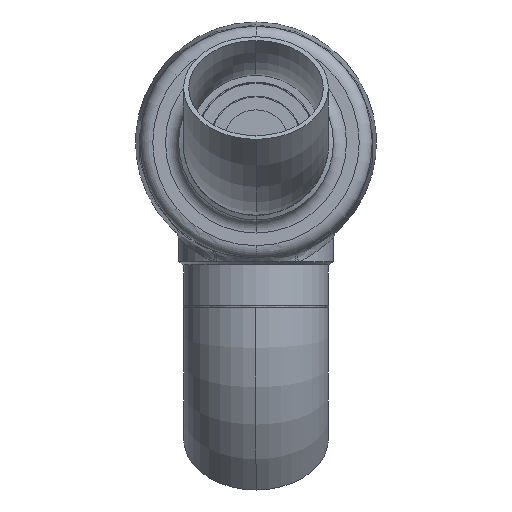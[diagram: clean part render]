
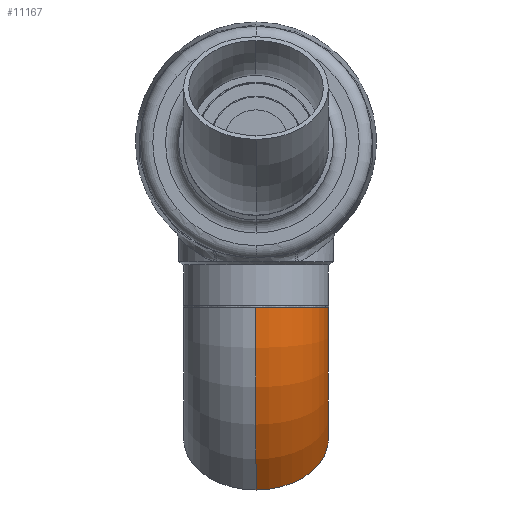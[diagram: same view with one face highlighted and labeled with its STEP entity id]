
A CAD part, front view. The second image highlights one B-rep face of the part: STEP entity #11167.
In plain terms, the highlighted toroidal (fillet/blend) face has major radius 114 mm and minor radius 44.45 mm.
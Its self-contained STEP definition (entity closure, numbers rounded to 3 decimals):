
#409 = ORIENTED_EDGE ( 'NONE', *, *, #1423, .T. ) ;
#912 = EDGE_CURVE ( 'NONE', #4461, #4678, #12273, .T. ) ;
#17565 = CARTESIAN_POINT ( 'NONE',  ( 0., 44.45, 0. ) ) ;
#1405 = ORIENTED_EDGE ( 'NONE', *, *, #3584, .F. ) ;
#1423 = EDGE_CURVE ( 'NONE', #4461, #2293, #12633, .T. ) ;
#17910 = CIRCLE ( 'NONE', #17911, 158.45 ) ;
#17911 = AXIS2_PLACEMENT_3D ( 'NONE', #17912, #17913, #17914 ) ;
#17912 = CARTESIAN_POINT ( 'NONE',  ( 0., -114., 0. ) ) ;
#17913 = DIRECTION ( 'NONE',  ( 0., 0., 1. ) ) ;
#17914 = DIRECTION ( 'NONE',  ( 1., 0., 0. ) ) ;
#18334 = EDGE_CURVE ( 'NONE', #2293, #3373, #2620, .T. ) ;
#2293 = VERTEX_POINT ( 'NONE', #13402 ) ;
#18703 = ORIENTED_EDGE ( 'NONE', *, *, #18334, .T. ) ;
#2620 = CIRCLE ( 'NONE', #2621, 44.45 ) ;
#2621 = AXIS2_PLACEMENT_3D ( 'NONE', #2622, #2623, #2624 ) ;
#2622 = CARTESIAN_POINT ( 'NONE',  ( 0., 0., 0. ) ) ;
#2623 = DIRECTION ( 'NONE',  ( 1., 0., 0. ) ) ;
#2624 = DIRECTION ( 'NONE',  ( 0., 0., -1. ) ) ;
#3079 = CARTESIAN_POINT ( 'NONE',  ( 49.179, -64.821, 0. ) ) ;
#3373 = VERTEX_POINT ( 'NONE', #17565 ) ;
#3584 = EDGE_CURVE ( 'NONE', #4678, #3373, #17910, .T. ) ;
#4461 = VERTEX_POINT ( 'NONE', #3079 ) ;
#4678 = VERTEX_POINT ( 'NONE', #6265 ) ;
#6265 = CARTESIAN_POINT ( 'NONE',  ( 112.041, -1.959, 0. ) ) ;
#10753 = EDGE_LOOP ( 'NONE', ( #1405, #13435, #409, #18703 ) ) ;
#11167 = ADVANCED_FACE ( 'NONE', ( #12915 ), #12916, .T. ) ;
#12273 = CIRCLE ( 'NONE', #12274, 44.45 ) ;
#12274 = AXIS2_PLACEMENT_3D ( 'NONE', #12275, #12276, #12277 ) ;
#12275 = CARTESIAN_POINT ( 'NONE',  ( 80.61, -33.39, 0. ) ) ;
#12276 = DIRECTION ( 'NONE',  ( 0.707, -0.707, 0. ) ) ;
#12277 = DIRECTION ( 'NONE',  ( 0., 0., -1. ) ) ;
#12633 = CIRCLE ( 'NONE', #12634, 69.55 ) ;
#12634 = AXIS2_PLACEMENT_3D ( 'NONE', #12635, #12636, #12637 ) ;
#12635 = CARTESIAN_POINT ( 'NONE',  ( 0., -114., 0. ) ) ;
#12636 = DIRECTION ( 'NONE',  ( 0., 0., 1. ) ) ;
#12637 = DIRECTION ( 'NONE',  ( 1., 0., 0. ) ) ;
#12915 = FACE_OUTER_BOUND ( 'NONE', #10753, .T. ) ;
#12916 = TOROIDAL_SURFACE ( 'NONE', #12917, 114., 44.45 ) ;
#12917 = AXIS2_PLACEMENT_3D ( 'NONE', #12918, #12919, #12920 ) ;
#12918 = CARTESIAN_POINT ( 'NONE',  ( 0., -114., 0. ) ) ;
#12919 = DIRECTION ( 'NONE',  ( 0., 0., 1. ) ) ;
#12920 = DIRECTION ( 'NONE',  ( 1., 0., 0. ) ) ;
#13402 = CARTESIAN_POINT ( 'NONE',  ( 0., -44.45, 0. ) ) ;
#13435 = ORIENTED_EDGE ( 'NONE', *, *, #912, .F. ) ;
